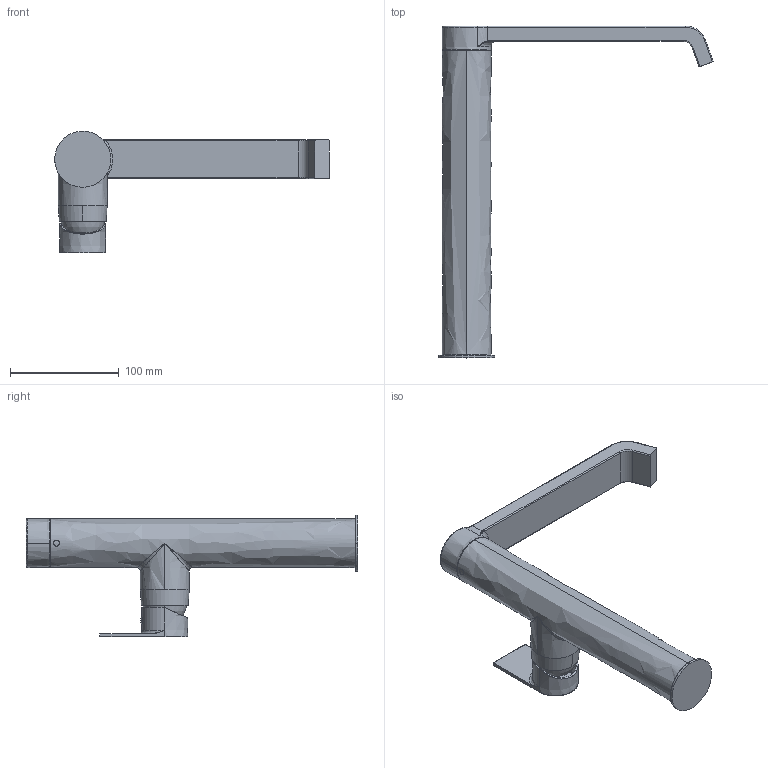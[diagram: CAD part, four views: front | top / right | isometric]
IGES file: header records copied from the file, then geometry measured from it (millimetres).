
Start section:  PTC IGES file: 83165.igs
Global section: file name: 83165.igs; native system: Pro/ENGINEER by Parametric Technology Corporation; preprocessor: 2009360; author: carloff; organization: Unknown; date: 20130919.155604; units: millimetre
Bounding box: 252.33 x 305 x 111.75 mm (x, y, z)
Surface area: 87701 mm2 (no closed solid volume)
Topology: 0 solids, 0 shells, 89 faces, 388 edges, 385 vertices
Faces by surface type: revolution 62, bspline 27
